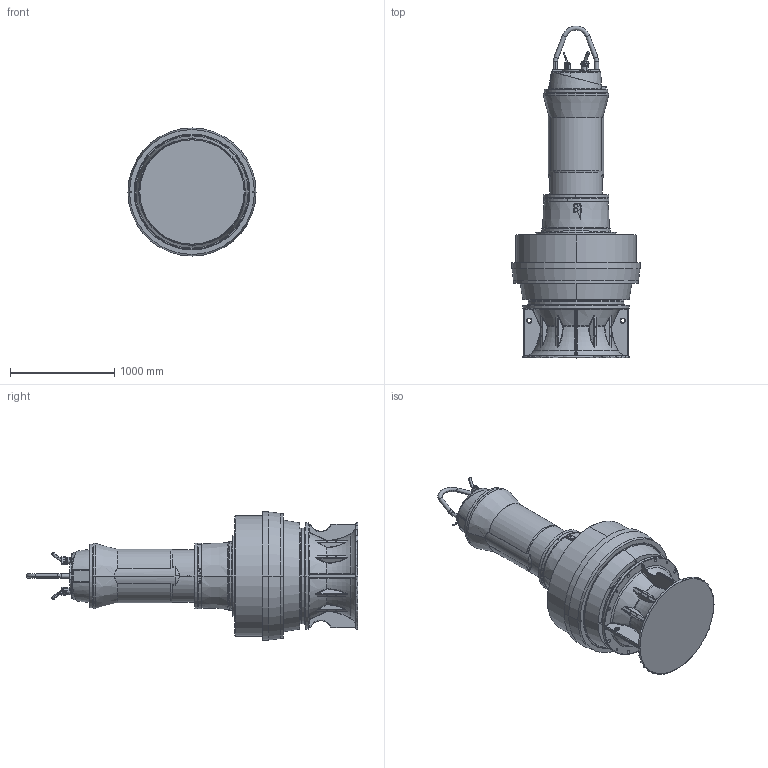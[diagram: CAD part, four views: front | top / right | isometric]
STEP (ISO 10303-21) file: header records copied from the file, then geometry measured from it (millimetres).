
FILE_DESCRIPTION (( 'STEP AP214' ), '1' );
FILE_NAME ('PE6_AFLX1203G3_STD_A_NG2.STEP', '2017-04-25T07:56:59', ( '' ), ( '' ), 'SwSTEP 2.0', 'SolidWorks 2017', '' );
FILE_SCHEMA (( 'AUTOMOTIVE_DESIGN' ));
Length unit declared in the file: millimetre
Products named in the file (1): PE6_AFLX1203G3_STD_A_NG2
Bounding box: 1230 x 3189 x 1230 mm (x, y, z)
Volume: 1314670789.9 mm3; surface area: 11807806.8 mm2
Topology: 3 solids, 15 shells, 2157 faces, 5162 edges, 2994 vertices
Faces by surface type: plane 562, cylinder 524, bspline 489, torus 260, cone 256, sphere 66
Entity records: 114215 total; most frequent: CARTESIAN_POINT 44294, ORIENTED_EDGE 10048, DIRECTION 9013, EDGE_CURVE 5024, AXIS2_PLACEMENT_3D 3611, VERTEX_POINT 2994, EDGE_LOOP 2336, UNCERTAINTY_MEASURE_WITH_UNIT 2162
